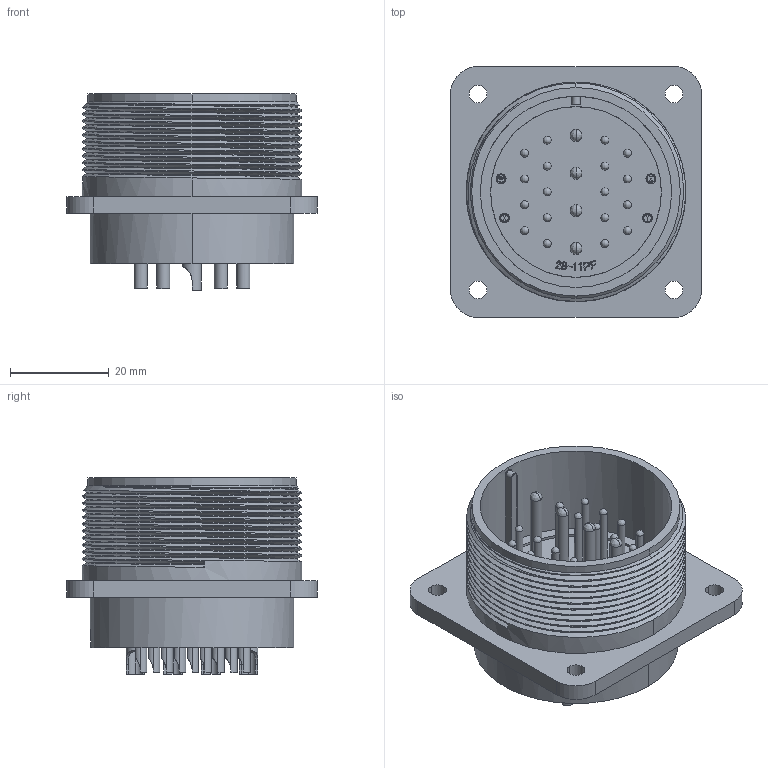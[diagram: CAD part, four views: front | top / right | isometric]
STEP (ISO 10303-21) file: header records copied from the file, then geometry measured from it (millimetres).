
FILE_DESCRIPTION (( 'STEP AP203' ), '1' );
FILE_NAME ('DMS3102A28-11P.STEP', '2017-03-07T00:26:11', ( '' ), ( '' ), 'SwSTEP 2.0', 'SolidWorks 2015', '' );
FILE_SCHEMA (( 'CONFIG_CONTROL_DESIGN' ));
Length unit declared in the file: millimetre
Products named in the file (1): DMS3102A28-11P
Bounding box: 50.8 x 50.8 x 39.72 mm (x, y, z)
Volume: 29155.4 mm3; surface area: 22153.1 mm2
Topology: 1 solids, 1 shells, 1128 faces, 2970 edges, 1877 vertices
Faces by surface type: plane 460, cylinder 451, bspline 176, cone 41
Entity records: 40943 total; most frequent: CARTESIAN_POINT 14656, ORIENTED_EDGE 5780, DIRECTION 4916, EDGE_CURVE 2890, VERTEX_POINT 1877, VECTOR 1670, LINE 1670, AXIS2_PLACEMENT_3D 1623
